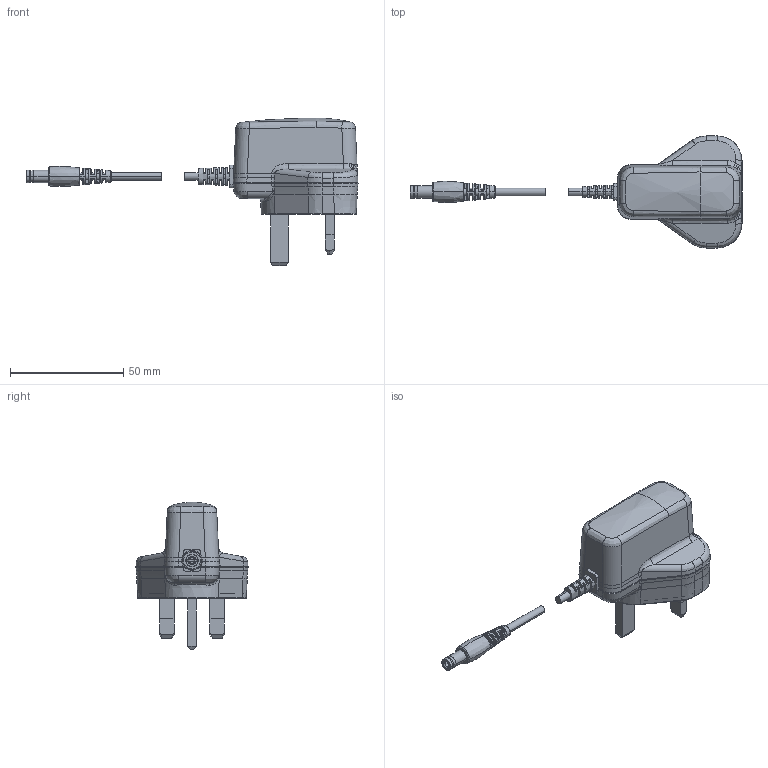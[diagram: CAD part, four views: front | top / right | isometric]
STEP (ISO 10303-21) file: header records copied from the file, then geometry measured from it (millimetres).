
FILE_DESCRIPTION (( 'STEP AP214' ), '1' );
FILE_NAME ('VFL05.STEP', '2024-04-15T03:06:37', ( '' ), ( '' ), 'SwSTEP 2.0', 'SolidWorks 2022', '' );
FILE_SCHEMA (( 'AUTOMOTIVE_DESIGN' ));
Length unit declared in the file: millimetre
Products named in the file (13): VFL05(2)^VFL05; TUBE^DC_PLUG_ASM_ALL_ASM_VFL05(2)_VFL05; INSULATION^DC_PLUG_ASM_ALL_ASM_VFL05(2)_VFL05; BRONZE_PLATE^DC_PLUG_ASM_ALL_ASM_VFL05(2)_VFL05; ALL_ASM^VFL05(2)_VFL05; VFL05; UK_ASM^VFL05(2)_VFL05; DC_PLUG_ASM^ALL_ASM_VFL05(2)_VFL05; BOT-UK^UK_ASM_VFL05(2)_VFL05; UK-TOP-SR^UK_ASM_VFL05(2)_VFL05; CABLE-1^ALL_ASM_VFL05(2)_VFL05; SR^VFL05(2)_VFL05; UK-PIN-NEW^UK_ASM_VFL05(2)_VFL05
Assembly tree (12 placements, depth 5):
  VFL05
    VFL05(2)^VFL05
      UK_ASM^VFL05(2)_VFL05
        BOT-UK^UK_ASM_VFL05(2)_VFL05
        UK-PIN-NEW^UK_ASM_VFL05(2)_VFL05
        UK-TOP-SR^UK_ASM_VFL05(2)_VFL05
      ALL_ASM^VFL05(2)_VFL05
        DC_PLUG_ASM^ALL_ASM_VFL05(2)_VFL05
          INSULATION^DC_PLUG_ASM_ALL_ASM_VFL05(2)_VFL05
          BRONZE_PLATE^DC_PLUG_ASM_ALL_ASM_VFL05(2)_VFL05
          TUBE^DC_PLUG_ASM_ALL_ASM_VFL05(2)_VFL05
        CABLE-1^ALL_ASM_VFL05(2)_VFL05
      SR^VFL05(2)_VFL05
Bounding box: 146.65 x 49.5 x 65.18 mm (x, y, z)
Volume: 18711.2 mm3; surface area: 25043.6 mm2
Topology: 9 solids, 9 shells, 1357 faces, 3467 edges, 2176 vertices
Faces by surface type: plane 582, bspline 356, cylinder 321, cone 76, torus 17, sphere 5
Entity records: 64045 total; most frequent: CARTESIAN_POINT 33998, ORIENTED_EDGE 6918, DIRECTION 5054, EDGE_CURVE 3459, VERTEX_POINT 2176, AXIS2_PLACEMENT_3D 1745, VECTOR 1564, LINE 1564
